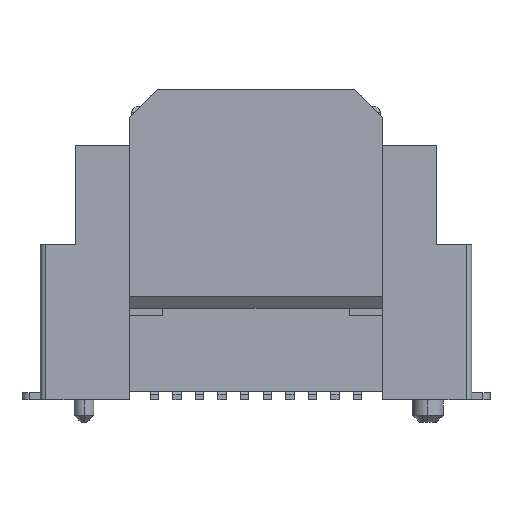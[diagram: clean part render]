
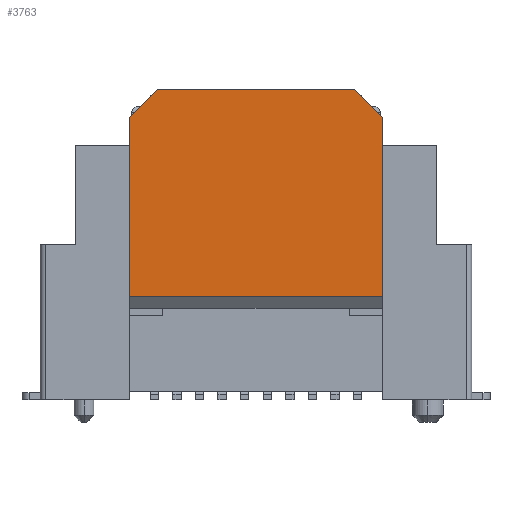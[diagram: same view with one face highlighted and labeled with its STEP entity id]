
A CAD part, top view. The second image highlights one B-rep face of the part: STEP entity #3763.
In plain terms, the highlighted planar face has unit normal (0, 0, 1).
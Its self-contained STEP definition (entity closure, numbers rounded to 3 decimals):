
#207 = VECTOR ( 'NONE', #12716, 1000. ) ;
#363 = ORIENTED_EDGE ( 'NONE', *, *, #10825, .F. ) ;
#712 = ORIENTED_EDGE ( 'NONE', *, *, #12966, .T. ) ;
#750 = VERTEX_POINT ( 'NONE', #5773 ) ;
#835 = AXIS2_PLACEMENT_3D ( 'NONE', #10873, #8819, #886 ) ;
#886 = DIRECTION ( 'NONE',  ( -1., 0., 0. ) ) ;
#968 = EDGE_CURVE ( 'NONE', #8688, #9414, #12992, .T. ) ;
#1176 = VECTOR ( 'NONE', #10214, 1000. ) ;
#1209 = DIRECTION ( 'NONE',  ( 0., 1., 0. ) ) ;
#1522 = EDGE_CURVE ( 'NONE', #2971, #1834, #12438, .T. ) ;
#1671 = ORIENTED_EDGE ( 'NONE', *, *, #968, .T. ) ;
#1834 = VERTEX_POINT ( 'NONE', #12880 ) ;
#1893 = VECTOR ( 'NONE', #4259, 1000. ) ;
#2275 = DIRECTION ( 'NONE',  ( 0., 1., 0. ) ) ;
#2316 = CARTESIAN_POINT ( 'NONE',  ( 3.5, 11., 2.9 ) ) ;
#2836 = DIRECTION ( 'NONE',  ( 0., 1., 0. ) ) ;
#2971 = VERTEX_POINT ( 'NONE', #13268 ) ;
#3016 = ORIENTED_EDGE ( 'NONE', *, *, #8918, .T. ) ;
#3139 = ORIENTED_EDGE ( 'NONE', *, *, #1522, .F. ) ;
#3354 = CARTESIAN_POINT ( 'NONE',  ( 4.5, 2.2, 2.9 ) ) ;
#3483 = ORIENTED_EDGE ( 'NONE', *, *, #6375, .T. ) ;
#3735 = CARTESIAN_POINT ( 'NONE',  ( 4.5, 10., 2.9 ) ) ;
#3763 = ADVANCED_FACE ( 'NONE', ( #5837 ), #7514, .F. ) ;
#4259 = DIRECTION ( 'NONE',  ( -0.707, -0.707, 0. ) ) ;
#4399 = CARTESIAN_POINT ( 'NONE',  ( -4.5, 10., 2.9 ) ) ;
#4968 = VECTOR ( 'NONE', #2836, 1000. ) ;
#5273 = EDGE_CURVE ( 'NONE', #10821, #750, #8626, .T. ) ;
#5499 = CARTESIAN_POINT ( 'NONE',  ( 4.5, 2.2, 2.9 ) ) ;
#5773 = CARTESIAN_POINT ( 'NONE',  ( -3.5, 11., 2.9 ) ) ;
#5837 = FACE_OUTER_BOUND ( 'NONE', #13623, .T. ) ;
#6144 = CARTESIAN_POINT ( 'NONE',  ( -4.5, 2.2, 2.9 ) ) ;
#6375 = EDGE_CURVE ( 'NONE', #750, #10117, #8971, .T. ) ;
#6893 = EDGE_CURVE ( 'NONE', #9414, #7991, #8794, .T. ) ;
#7153 = DIRECTION ( 'NONE',  ( 1., 0., 0. ) ) ;
#7189 = ORIENTED_EDGE ( 'NONE', *, *, #5273, .T. ) ;
#7514 = PLANE ( 'NONE',  #835 ) ;
#7991 = VERTEX_POINT ( 'NONE', #10740 ) ;
#8134 = CARTESIAN_POINT ( 'NONE',  ( -4.5, 11., 2.9 ) ) ;
#8252 = VECTOR ( 'NONE', #1209, 1000. ) ;
#8513 = LINE ( 'NONE', #3735, #207 ) ;
#8626 = LINE ( 'NONE', #8134, #9336 ) ;
#8688 = VERTEX_POINT ( 'NONE', #9054 ) ;
#8794 = LINE ( 'NONE', #5499, #1176 ) ;
#8819 = DIRECTION ( 'NONE',  ( 0., 0., -1. ) ) ;
#8918 = EDGE_CURVE ( 'NONE', #7991, #10821, #8513, .T. ) ;
#8943 = VECTOR ( 'NONE', #2275, 1000. ) ;
#8971 = LINE ( 'NONE', #13257, #1893 ) ;
#9054 = CARTESIAN_POINT ( 'NONE',  ( 4.5, 3.67, 2.9 ) ) ;
#9235 = VECTOR ( 'NONE', #7153, 1000. ) ;
#9336 = VECTOR ( 'NONE', #10526, 1000. ) ;
#9414 = VERTEX_POINT ( 'NONE', #9453 ) ;
#9453 = CARTESIAN_POINT ( 'NONE',  ( 4.5, 9., 2.9 ) ) ;
#9576 = LINE ( 'NONE', #10456, #9235 ) ;
#10117 = VERTEX_POINT ( 'NONE', #4399 ) ;
#10214 = DIRECTION ( 'NONE',  ( 0., 1., 0. ) ) ;
#10456 = CARTESIAN_POINT ( 'NONE',  ( -5.724, 3.67, 2.9 ) ) ;
#10526 = DIRECTION ( 'NONE',  ( -1., 0., 0. ) ) ;
#10740 = CARTESIAN_POINT ( 'NONE',  ( 4.5, 10., 2.9 ) ) ;
#10821 = VERTEX_POINT ( 'NONE', #2316 ) ;
#10825 = EDGE_CURVE ( 'NONE', #1834, #10117, #11383, .T. ) ;
#10873 = CARTESIAN_POINT ( 'NONE',  ( -4.5, 2.2, 2.9 ) ) ;
#11027 = CARTESIAN_POINT ( 'NONE',  ( -4.5, 2.2, 2.9 ) ) ;
#11161 = ORIENTED_EDGE ( 'NONE', *, *, #6893, .T. ) ;
#11383 = LINE ( 'NONE', #6144, #4968 ) ;
#12438 = LINE ( 'NONE', #11027, #8943 ) ;
#12716 = DIRECTION ( 'NONE',  ( -0.707, 0.707, 0. ) ) ;
#12880 = CARTESIAN_POINT ( 'NONE',  ( -4.5, 9., 2.9 ) ) ;
#12966 = EDGE_CURVE ( 'NONE', #2971, #8688, #9576, .T. ) ;
#12992 = LINE ( 'NONE', #3354, #8252 ) ;
#13257 = CARTESIAN_POINT ( 'NONE',  ( -3.5, 11., 2.9 ) ) ;
#13268 = CARTESIAN_POINT ( 'NONE',  ( -4.5, 3.67, 2.9 ) ) ;
#13623 = EDGE_LOOP ( 'NONE', ( #11161, #3016, #7189, #3483, #363, #3139, #712, #1671 ) ) ;
